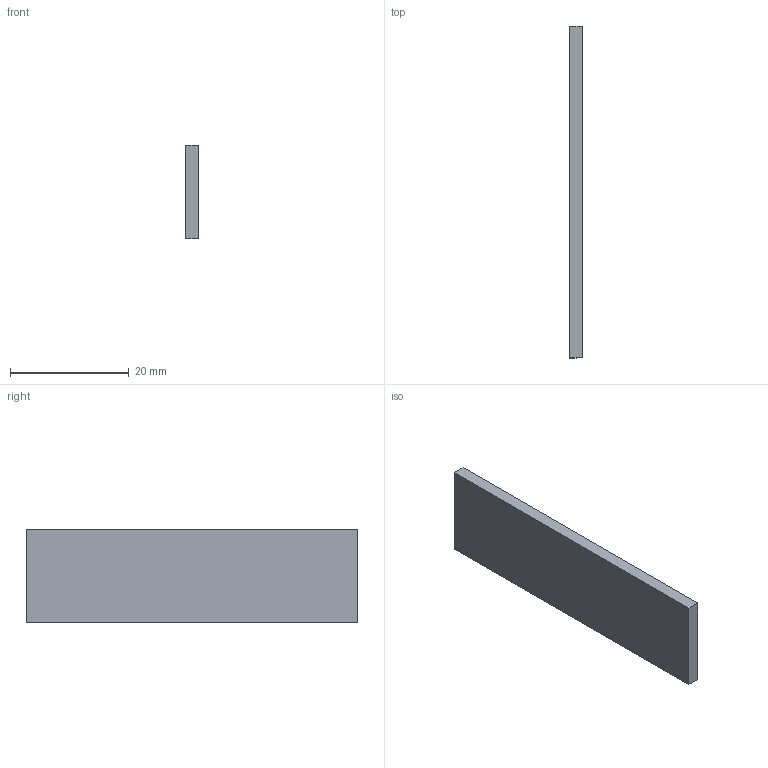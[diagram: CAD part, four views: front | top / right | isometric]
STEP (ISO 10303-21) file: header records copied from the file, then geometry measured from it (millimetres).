
FILE_DESCRIPTION (( 'STEP AP203' ), '1' );
FILE_NAME ('KU-Modell_Abdeckkappe_Rechts.step', '2018-04-03T08:41:35', ( 'Windows-Benutzer' ), ( '' ), 'SwSTEP 2.0', 'SolidWorks 2017', '' );
FILE_SCHEMA (( 'CONFIG_CONTROL_DESIGN' ));
Length unit declared in the file: millimetre
Products named in the file (1): KU-Modell_Abdeckkappe_Rechts
Bounding box: 2.1 x 55.8 x 15.75 mm (x, y, z)
Volume: 1845.6 mm3; surface area: 2058.2 mm2
Topology: 1 solids, 1 shells, 6 faces, 12 edges, 8 vertices
Faces by surface type: plane 6
Entity records: 233 total; most frequent: CARTESIAN_POINT 27, DIRECTION 26, ORIENTED_EDGE 24, EDGE_CURVE 12, LINE 12, VECTOR 12, PERSON_AND_ORGANIZATION 8, VERTEX_POINT 8
